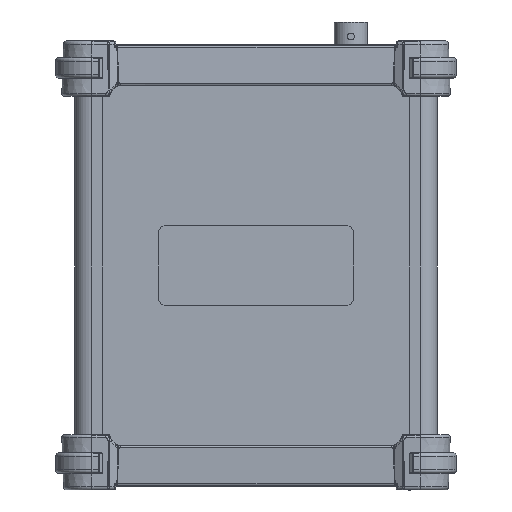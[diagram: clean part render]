
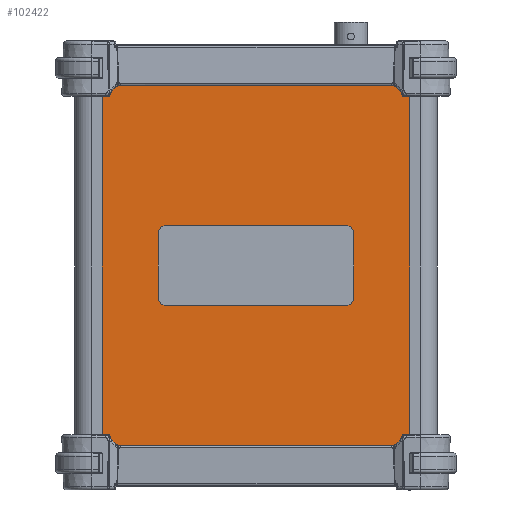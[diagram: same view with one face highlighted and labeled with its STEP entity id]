
A CAD part, front view. The second image highlights one B-rep face of the part: STEP entity #102422.
In plain terms, the highlighted planar face has unit normal (0, -1, 0).
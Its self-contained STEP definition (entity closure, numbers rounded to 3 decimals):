
#7847 = FACE_OUTER_BOUND ( 'NONE', #116913, .T. ) ;
#12556 = CARTESIAN_POINT ( 'NONE',  ( -44.5, -21.5, -57. ) ) ;
#15455 = LINE ( 'NONE', #12556, #39802 ) ;
#20025 = VECTOR ( 'NONE', #64190, 1000. ) ;
#22453 = DIRECTION ( 'NONE',  ( 0., -1., 0. ) ) ;
#26660 = CARTESIAN_POINT ( 'NONE',  ( 44.5, -21.5, 57. ) ) ;
#27024 = VERTEX_POINT ( 'NONE', #43511 ) ;
#27178 = VERTEX_POINT ( 'NONE', #39005 ) ;
#27244 = ORIENTED_EDGE ( 'NONE', *, *, #67146, .F. ) ;
#31390 = EDGE_CURVE ( 'NONE', #27024, #36862, #15455, .T. ) ;
#36862 = VERTEX_POINT ( 'NONE', #46608 ) ;
#39005 = CARTESIAN_POINT ( 'NONE',  ( -44.5, -21.5, 57. ) ) ;
#39802 = VECTOR ( 'NONE', #114250, 1000. ) ;
#43511 = CARTESIAN_POINT ( 'NONE',  ( -44.5, -21.5, -57. ) ) ;
#43644 = CARTESIAN_POINT ( 'NONE',  ( -44.5, -21.5, -57. ) ) ;
#45032 = CARTESIAN_POINT ( 'NONE',  ( 44.5, -21.5, -57. ) ) ;
#46608 = CARTESIAN_POINT ( 'NONE',  ( 44.5, -21.5, -57. ) ) ;
#50711 = VECTOR ( 'NONE', #52587, 1000. ) ;
#52587 = DIRECTION ( 'NONE',  ( 0., 0., 1. ) ) ;
#54650 = CARTESIAN_POINT ( 'NONE',  ( -44.5, -21.5, 57. ) ) ;
#54766 = LINE ( 'NONE', #130948, #50711 ) ;
#55256 = DIRECTION ( 'NONE',  ( 0., 0., 1. ) ) ;
#55330 = DIRECTION ( 'NONE',  ( -1., 0., 0. ) ) ;
#64190 = DIRECTION ( 'NONE',  ( 1., 0., 0. ) ) ;
#65013 = ORIENTED_EDGE ( 'NONE', *, *, #83784, .F. ) ;
#67146 = EDGE_CURVE ( 'NONE', #27024, #27178, #54766, .T. ) ;
#75842 = LINE ( 'NONE', #54650, #20025 ) ;
#83784 = EDGE_CURVE ( 'NONE', #27178, #125503, #75842, .T. ) ;
#88420 = VECTOR ( 'NONE', #55256, 1000. ) ;
#89702 = EDGE_CURVE ( 'NONE', #36862, #125503, #110885, .T. ) ;
#100835 = ORIENTED_EDGE ( 'NONE', *, *, #31390, .T. ) ;
#102422 = ADVANCED_FACE ( 'NONE', ( #7847 ), #119761, .T. ) ;
#108127 = ORIENTED_EDGE ( 'NONE', *, *, #89702, .T. ) ;
#110885 = LINE ( 'NONE', #45032, #88420 ) ;
#114250 = DIRECTION ( 'NONE',  ( 1., 0., 0. ) ) ;
#116913 = EDGE_LOOP ( 'NONE', ( #100835, #108127, #65013, #27244 ) ) ;
#119761 = PLANE ( 'NONE',  #134919 ) ;
#125503 = VERTEX_POINT ( 'NONE', #26660 ) ;
#130948 = CARTESIAN_POINT ( 'NONE',  ( -44.5, -21.5, -57. ) ) ;
#134919 = AXIS2_PLACEMENT_3D ( 'NONE', #43644, #22453, #55330 ) ;
